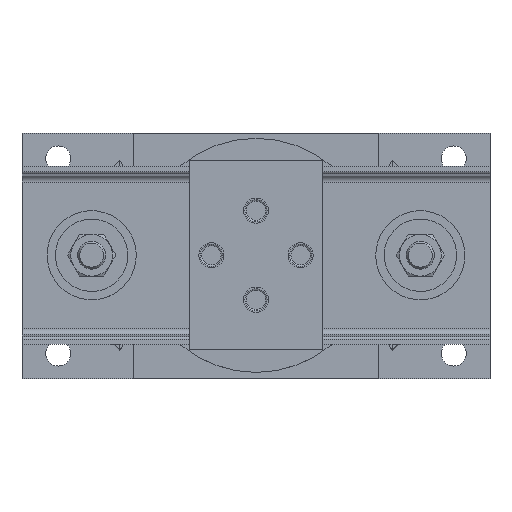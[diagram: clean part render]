
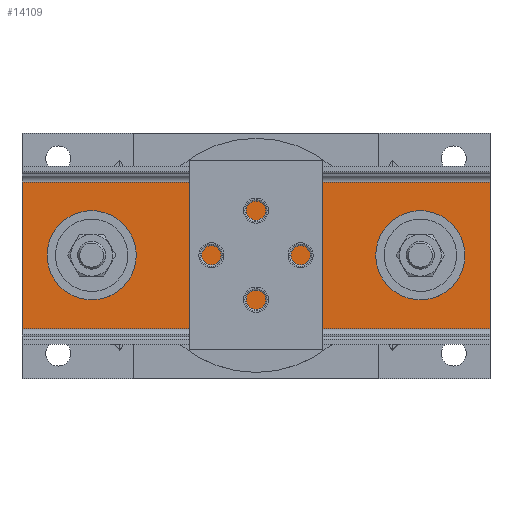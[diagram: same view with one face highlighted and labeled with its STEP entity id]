
A CAD part, top view. The second image highlights one B-rep face of the part: STEP entity #14109.
In plain terms, the highlighted planar face has unit normal (0, 0, 1).
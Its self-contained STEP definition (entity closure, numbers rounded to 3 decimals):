
#1746=LINE('',#18953,#2246);
#1770=LINE('',#19012,#2270);
#1771=LINE('',#19015,#2271);
#1772=LINE('',#19016,#2272);
#2246=VECTOR('',#16627,21.);
#2270=VECTOR('',#16681,21.);
#2271=VECTOR('',#16686,6.572);
#2272=VECTOR('',#16687,6.572);
#3081=PLANE('',#15276);
#3294=FACE_BOUND('',#4650,.T.);
#3295=FACE_BOUND('',#4651,.T.);
#3296=FACE_BOUND('',#4652,.T.);
#3604=FACE_OUTER_BOUND('',#4649,.T.);
#4649=EDGE_LOOP('',(#9865,#9866,#9867,#9868));
#4650=EDGE_LOOP('',(#9869));
#4651=EDGE_LOOP('',(#9870));
#4652=EDGE_LOOP('',(#9871));
#5575=CIRCLE('',#15249,0.188);
#5577=CIRCLE('',#15252,1.125);
#5579=CIRCLE('',#15255,1.125);
#6028=VERTEX_POINT('',#18931);
#6030=VERTEX_POINT('',#18936);
#6032=VERTEX_POINT('',#18941);
#6034=VERTEX_POINT('',#18946);
#6037=VERTEX_POINT('',#18951);
#6056=VERTEX_POINT('',#19009);
#6057=VERTEX_POINT('',#19011);
#7355=EDGE_CURVE('',#6028,#6028,#5575,.T.);
#7357=EDGE_CURVE('',#6030,#6030,#5577,.T.);
#7359=EDGE_CURVE('',#6032,#6032,#5579,.T.);
#7364=EDGE_CURVE('',#6037,#6034,#1746,.T.);
#7393=EDGE_CURVE('',#6057,#6056,#1770,.T.);
#7395=EDGE_CURVE('',#6056,#6034,#1771,.T.);
#7396=EDGE_CURVE('',#6057,#6037,#1772,.T.);
#9865=ORIENTED_EDGE('',*,*,#7395,.T.);
#9866=ORIENTED_EDGE('',*,*,#7364,.F.);
#9867=ORIENTED_EDGE('',*,*,#7396,.F.);
#9868=ORIENTED_EDGE('',*,*,#7393,.T.);
#9869=ORIENTED_EDGE('',*,*,#7355,.T.);
#9870=ORIENTED_EDGE('',*,*,#7357,.T.);
#9871=ORIENTED_EDGE('',*,*,#7359,.T.);
#14109=ADVANCED_FACE('',(#3604,#3294,#3295,#3296),#3081,.T.);
#15249=AXIS2_PLACEMENT_3D('',#18932,#16604,#16605);
#15252=AXIS2_PLACEMENT_3D('',#18937,#16610,#16611);
#15255=AXIS2_PLACEMENT_3D('',#18942,#16616,#16617);
#15276=AXIS2_PLACEMENT_3D('',#19014,#16684,#16685);
#16604=DIRECTION('center_axis',(0.,0.,
-1.));
#16605=DIRECTION('ref_axis',(-1.,0.,0.));
#16610=DIRECTION('center_axis',(0.,0.,
-1.));
#16611=DIRECTION('ref_axis',(-1.,0.,0.));
#16616=DIRECTION('center_axis',(0.,0.,
-1.));
#16617=DIRECTION('ref_axis',(-1.,0.,0.));
#16627=DIRECTION('',(-1.,0.,0.));
#16681=DIRECTION('',(-1.,0.,0.));
#16684=DIRECTION('center_axis',(0.,0.,
1.));
#16685=DIRECTION('ref_axis',(1.,0.,0.));
#16686=DIRECTION('',(0.,-1.,0.));
#16687=DIRECTION('',(0.,-1.,0.));
#18931=CARTESIAN_POINT('',(0.188,0.,19.21));
#18932=CARTESIAN_POINT('Origin',(0.,0.,
19.21));
#18936=CARTESIAN_POINT('',(8.5,0.,19.21));
#18937=CARTESIAN_POINT('Origin',(7.375,0.,19.21));
#18941=CARTESIAN_POINT('',(-6.25,0.,19.21));
#18942=CARTESIAN_POINT('Origin',(-7.375,0.,19.21));
#18946=CARTESIAN_POINT('',(-10.5,-3.286,19.21));
#18951=CARTESIAN_POINT('',(10.5,-3.286,19.21));
#18953=CARTESIAN_POINT('',(10.5,-3.286,19.21));
#19009=CARTESIAN_POINT('',(-10.5,3.286,19.21));
#19011=CARTESIAN_POINT('',(10.5,3.286,19.21));
#19012=CARTESIAN_POINT('',(10.5,3.286,19.21));
#19014=CARTESIAN_POINT('Origin',(10.5,0.,19.21));
#19015=CARTESIAN_POINT('',(-10.5,0.,19.21));
#19016=CARTESIAN_POINT('',(10.5,0.,19.21));
